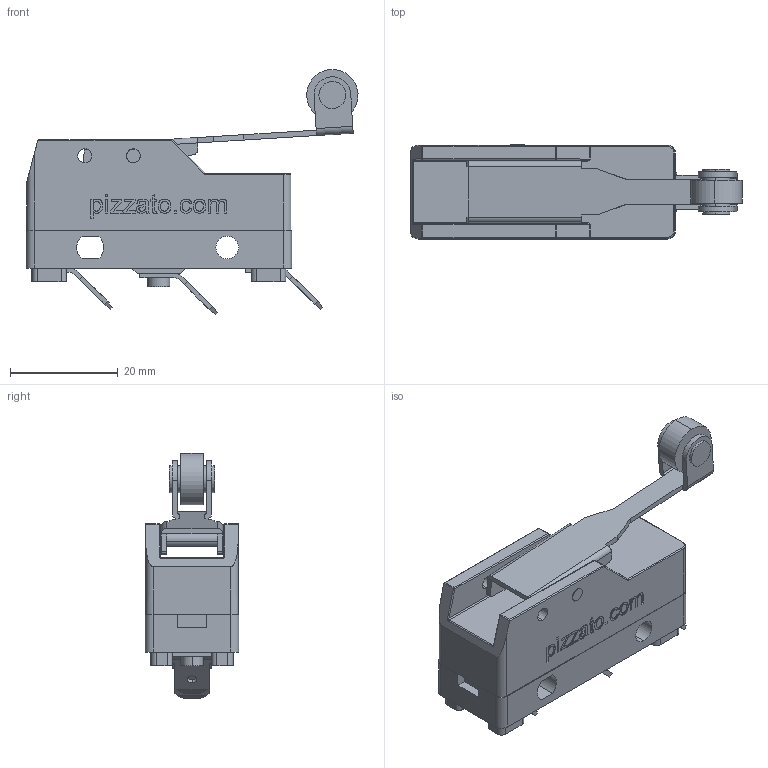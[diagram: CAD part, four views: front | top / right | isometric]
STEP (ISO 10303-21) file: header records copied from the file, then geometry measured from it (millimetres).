
FILE_DESCRIPTION (( 'STEP AP214' ), '1' );
FILE_NAME ('ZF_STEP_MF_55_.step', '2019-08-27T09:23:47', ( 'Pizzato Elettrica' ), ( 'Microsoft' ), 'SwSTEP 2.0', 'SolidWorks 2014', '' );
FILE_SCHEMA (( 'AUTOMOTIVE_DESIGN' ));
Length unit declared in the file: millimetre
Products named in the file (6): Pizzato_Leva_MS_55_MK53; Pizzato_Perno Leva; MF Base 180+182; Pizzato_Faston_121; Pizzato_base 180+182_MF; ZF_STEP_MF_55_
Assembly tree (7 placements, depth 3):
  ZF_STEP_MF_55_
    MF Base 180+182
      Pizzato_base 180+182_MF
      Pizzato_Faston_121  x3
    Pizzato_Perno Leva
    Pizzato_Leva_MS_55_MK53
Bounding box: 61.51 x 17.4 x 45.4 mm (x, y, z)
Volume: 16644.5 mm3; surface area: 10142.9 mm2
Topology: 7 solids, 7 shells, 434 faces, 1132 edges, 738 vertices
Faces by surface type: plane 227, cylinder 124, bspline 73, sphere 6, torus 4
Entity records: 15547 total; most frequent: CARTESIAN_POINT 6068, ORIENTED_EDGE 2012, DIRECTION 1728, EDGE_CURVE 1006, VERTEX_POINT 658, VECTOR 636, LINE 636, AXIS2_PLACEMENT_3D 546
